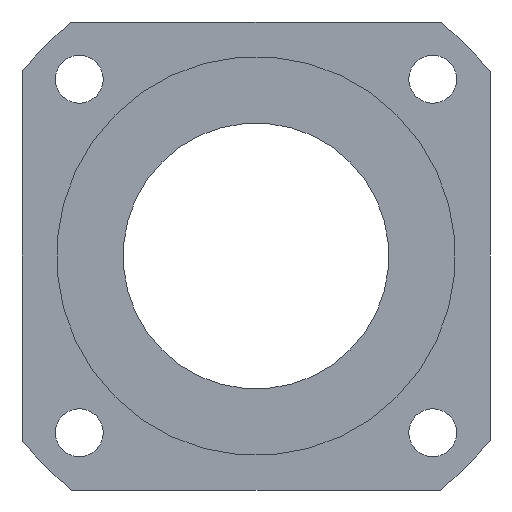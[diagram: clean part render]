
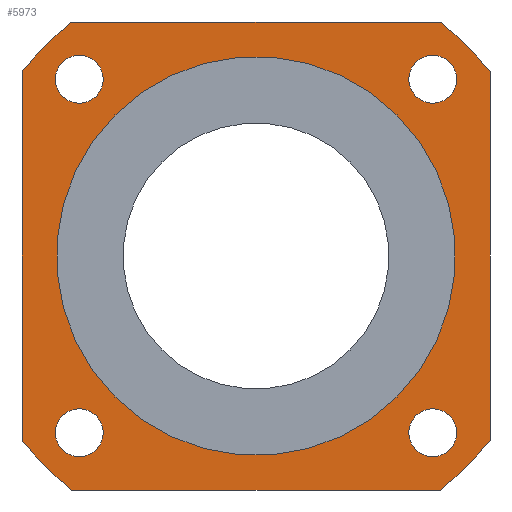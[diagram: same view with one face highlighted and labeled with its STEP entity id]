
A CAD part, left-side view. The second image highlights one B-rep face of the part: STEP entity #5973.
In plain terms, the highlighted planar face has unit normal (-1, 0, 0).
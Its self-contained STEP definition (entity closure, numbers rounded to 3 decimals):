
#106=CIRCLE('',#6335,56.);
#107=CIRCLE('',#6337,56.);
#108=CIRCLE('',#6339,56.);
#118=CIRCLE('',#6354,37.5);
#120=CIRCLE('',#6359,56.);
#121=CIRCLE('',#6360,4.5);
#122=CIRCLE('',#6361,4.5);
#123=CIRCLE('',#6362,4.5);
#124=CIRCLE('',#6363,4.5);
#542=ORIENTED_EDGE('',*,*,#2262,.T.);
#543=ORIENTED_EDGE('',*,*,#2245,.F.);
#544=ORIENTED_EDGE('',*,*,#2263,.T.);
#545=ORIENTED_EDGE('',*,*,#2248,.F.);
#546=ORIENTED_EDGE('',*,*,#2264,.T.);
#547=ORIENTED_EDGE('',*,*,#2265,.F.);
#548=ORIENTED_EDGE('',*,*,#2266,.T.);
#549=ORIENTED_EDGE('',*,*,#2243,.F.);
#550=ORIENTED_EDGE('',*,*,#2267,.T.);
#551=ORIENTED_EDGE('',*,*,#2268,.T.);
#552=ORIENTED_EDGE('',*,*,#2269,.T.);
#553=ORIENTED_EDGE('',*,*,#2270,.T.);
#554=ORIENTED_EDGE('',*,*,#2260,.T.);
#2243=EDGE_CURVE('',#3105,#3106,#106,.T.);
#2245=EDGE_CURVE('',#3107,#3108,#107,.T.);
#2248=EDGE_CURVE('',#3109,#3110,#108,.T.);
#2260=EDGE_CURVE('',#3120,#3120,#118,.T.);
#2262=EDGE_CURVE('',#3105,#3108,#3636,.T.);
#2263=EDGE_CURVE('',#3107,#3110,#3637,.T.);
#2264=EDGE_CURVE('',#3109,#3122,#3638,.T.);
#2265=EDGE_CURVE('',#3123,#3122,#120,.T.);
#2266=EDGE_CURVE('',#3123,#3106,#3639,.T.);
#2267=EDGE_CURVE('',#3124,#3124,#121,.T.);
#2268=EDGE_CURVE('',#3125,#3125,#122,.T.);
#2269=EDGE_CURVE('',#3126,#3126,#123,.T.);
#2270=EDGE_CURVE('',#3127,#3127,#124,.T.);
#3105=VERTEX_POINT('',#9387);
#3106=VERTEX_POINT('',#9389);
#3107=VERTEX_POINT('',#9393);
#3108=VERTEX_POINT('',#9394);
#3109=VERTEX_POINT('',#9399);
#3110=VERTEX_POINT('',#9400);
#3120=VERTEX_POINT('',#9427);
#3122=VERTEX_POINT('',#9436);
#3123=VERTEX_POINT('',#9438);
#3124=VERTEX_POINT('',#9441);
#3125=VERTEX_POINT('',#9443);
#3126=VERTEX_POINT('',#9445);
#3127=VERTEX_POINT('',#9447);
#3636=LINE('',#9433,#4349);
#3637=LINE('',#9434,#4350);
#3638=LINE('',#9435,#4351);
#3639=LINE('',#9439,#4352);
#4349=VECTOR('',#6936,1000.);
#4350=VECTOR('',#6937,1000.);
#4351=VECTOR('',#6938,1000.);
#4352=VECTOR('',#6941,1000.);
#4906=EDGE_LOOP('',(#542,#543,#544,#545,#546,#547,#548,#549));
#4907=EDGE_LOOP('',(#550));
#4908=EDGE_LOOP('',(#551));
#4909=EDGE_LOOP('',(#552));
#4910=EDGE_LOOP('',(#553));
#4911=EDGE_LOOP('',(#554));
#5329=FACE_BOUND('',#4906,.T.);
#5330=FACE_BOUND('',#4907,.T.);
#5331=FACE_BOUND('',#4908,.T.);
#5332=FACE_BOUND('',#4909,.T.);
#5333=FACE_BOUND('',#4910,.T.);
#5334=FACE_BOUND('',#4911,.T.);
#5696=PLANE('',#6358);
#5973=ADVANCED_FACE('',(#5329,#5330,#5331,#5332,#5333,#5334),#5696,.F.);
#6335=AXIS2_PLACEMENT_3D('',#9388,#6883,#6884);
#6337=AXIS2_PLACEMENT_3D('',#9392,#6888,#6889);
#6339=AXIS2_PLACEMENT_3D('',#9398,#6894,#6895);
#6354=AXIS2_PLACEMENT_3D('',#9426,#6926,#6927);
#6358=AXIS2_PLACEMENT_3D('',#9432,#6934,#6935);
#6359=AXIS2_PLACEMENT_3D('',#9437,#6939,#6940);
#6360=AXIS2_PLACEMENT_3D('',#9440,#6942,#6943);
#6361=AXIS2_PLACEMENT_3D('',#9442,#6944,#6945);
#6362=AXIS2_PLACEMENT_3D('',#9444,#6946,#6947);
#6363=AXIS2_PLACEMENT_3D('',#9446,#6948,#6949);
#6883=DIRECTION('',(1.,0.,0.));
#6884=DIRECTION('',(0.,0.707,-0.707));
#6888=DIRECTION('',(1.,0.,0.));
#6889=DIRECTION('',(0.,0.707,-0.707));
#6894=DIRECTION('',(1.,0.,0.));
#6895=DIRECTION('',(0.,0.707,-0.707));
#6926=DIRECTION('',(1.,0.,0.));
#6927=DIRECTION('',(0.,0.707,-0.707));
#6934=DIRECTION('',(1.,0.,0.));
#6935=DIRECTION('',(0.,0.707,-0.707));
#6936=DIRECTION('',(0.,1.,0.));
#6937=DIRECTION('',(0.,0.,-1.));
#6938=DIRECTION('',(0.,-1.,0.));
#6939=DIRECTION('',(1.,0.,0.));
#6940=DIRECTION('',(0.,0.707,-0.707));
#6941=DIRECTION('',(0.,0.,1.));
#6942=DIRECTION('',(1.,0.,0.));
#6943=DIRECTION('',(0.,0.707,-0.707));
#6944=DIRECTION('',(1.,0.,0.));
#6945=DIRECTION('',(0.,0.707,-0.707));
#6946=DIRECTION('',(1.,0.,0.));
#6947=DIRECTION('',(0.,0.707,-0.707));
#6948=DIRECTION('',(1.,0.,0.));
#6949=DIRECTION('',(0.,0.707,-0.707));
#9387=CARTESIAN_POINT('',(83.,-34.641,44.));
#9388=CARTESIAN_POINT('',(83.,0.,0.));
#9389=CARTESIAN_POINT('',(83.,-44.,34.641));
#9392=CARTESIAN_POINT('',(83.,0.,0.));
#9393=CARTESIAN_POINT('',(83.,44.,34.641));
#9394=CARTESIAN_POINT('',(83.,34.641,44.));
#9398=CARTESIAN_POINT('',(83.,0.,0.));
#9399=CARTESIAN_POINT('',(83.,34.641,-44.));
#9400=CARTESIAN_POINT('',(83.,44.,-34.641));
#9426=CARTESIAN_POINT('',(83.,0.,0.));
#9427=CARTESIAN_POINT('',(83.,26.517,-26.517));
#9432=CARTESIAN_POINT('',(83.,0.,0.));
#9433=CARTESIAN_POINT('',(83.,44.,44.));
#9434=CARTESIAN_POINT('',(83.,44.,-44.));
#9435=CARTESIAN_POINT('',(83.,-44.,-44.));
#9436=CARTESIAN_POINT('',(83.,-34.641,-44.));
#9437=CARTESIAN_POINT('',(83.,0.,0.));
#9438=CARTESIAN_POINT('',(83.,-44.,-34.641));
#9439=CARTESIAN_POINT('',(83.,-44.,44.));
#9440=CARTESIAN_POINT('',(83.,33.234,-33.234));
#9441=CARTESIAN_POINT('',(83.,36.416,-36.416));
#9442=CARTESIAN_POINT('',(83.,-33.234,-33.234));
#9443=CARTESIAN_POINT('',(83.,-30.052,-36.416));
#9444=CARTESIAN_POINT('',(83.,-33.234,33.234));
#9445=CARTESIAN_POINT('',(83.,-30.052,30.052));
#9446=CARTESIAN_POINT('',(83.,33.234,33.234));
#9447=CARTESIAN_POINT('',(83.,36.416,30.052));
